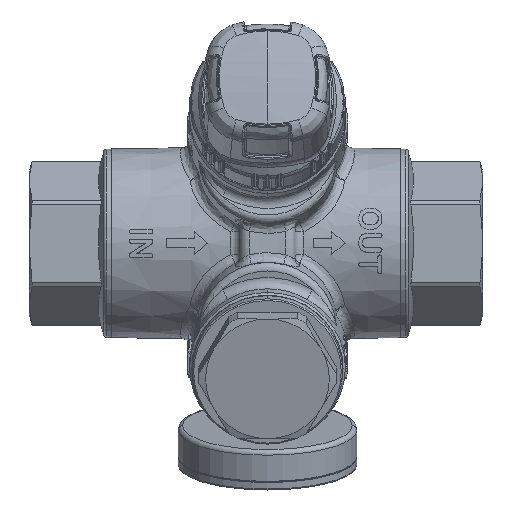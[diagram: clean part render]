
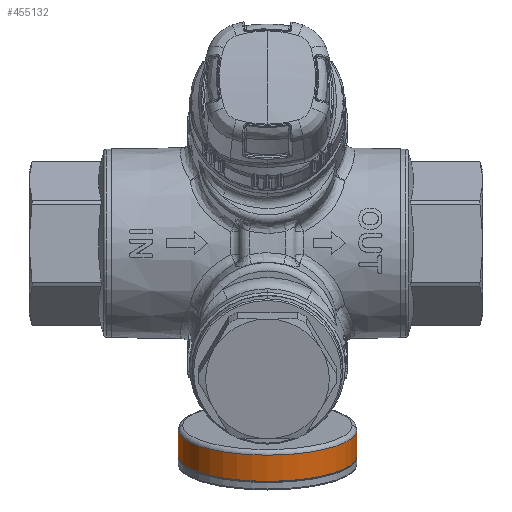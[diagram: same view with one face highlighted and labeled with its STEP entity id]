
A CAD part, top view. The second image highlights one B-rep face of the part: STEP entity #455132.
In plain terms, the highlighted cylindrical face has radius 19.5 mm (diameter 39 mm), a partial arc.
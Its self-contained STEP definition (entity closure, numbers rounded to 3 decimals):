
#454977 = PLANE('',#454978);
#454978 = AXIS2_PLACEMENT_3D('',#454979,#454980,#454981);
#454979 = CARTESIAN_POINT('',(1.101,31.093,
    28.256));
#454980 = DIRECTION('',(0.,-0.959,
    -0.282));
#454981 = DIRECTION('',(-1.,0.,0.));
#455068 = VERTEX_POINT('',#455069);
#455069 = CARTESIAN_POINT('',(20.601,31.093,
    28.256));
#455070 = VERTEX_POINT('',#455071);
#455071 = CARTESIAN_POINT('',(-18.399,31.093,
    28.256));
#455090 = CYLINDRICAL_SURFACE('',#455091,19.5);
#455091 = AXIS2_PLACEMENT_3D('',#455092,#455093,#455094);
#455092 = CARTESIAN_POINT('',(1.101,48.313,
    33.324));
#455093 = DIRECTION('',(0.,-0.959,
    -0.282));
#455094 = DIRECTION('',(-1.,0.,0.));
#455102 = EDGE_CURVE('',#455068,#455070,#455103,.T.);
#455103 = SURFACE_CURVE('',#455104,(#455109,#455116),.PCURVE_S1.);
#455104 = CIRCLE('',#455105,19.5);
#455105 = AXIS2_PLACEMENT_3D('',#455106,#455107,#455108);
#455106 = CARTESIAN_POINT('',(1.101,31.093,
    28.256));
#455107 = DIRECTION('',(0.,-0.959,
    -0.282));
#455108 = DIRECTION('',(1.,0.,0.));
#455109 = PCURVE('',#454977,#455110);
#455110 = DEFINITIONAL_REPRESENTATION('',(#455111),#455115);
#455111 = CIRCLE('',#455112,19.5);
#455112 = AXIS2_PLACEMENT_2D('',#455113,#455114);
#455113 = CARTESIAN_POINT('',(0.,0.));
#455114 = DIRECTION('',(-1.,0.));
#455115 = ( GEOMETRIC_REPRESENTATION_CONTEXT(2) 
PARAMETRIC_REPRESENTATION_CONTEXT() REPRESENTATION_CONTEXT('2D SPACE',''
  ) );
#455116 = PCURVE('',#455117,#455122);
#455117 = CYLINDRICAL_SURFACE('',#455118,19.5);
#455118 = AXIS2_PLACEMENT_3D('',#455119,#455120,#455121);
#455119 = CARTESIAN_POINT('',(1.101,48.313,
    33.324));
#455120 = DIRECTION('',(0.,-0.959,
    -0.282));
#455121 = DIRECTION('',(-1.,0.,0.));
#455122 = DEFINITIONAL_REPRESENTATION('',(#455123),#455127);
#455123 = LINE('',#455124,#455125);
#455124 = CARTESIAN_POINT('',(3.142,17.95));
#455125 = VECTOR('',#455126,1.);
#455126 = DIRECTION('',(1.,0.));
#455127 = ( GEOMETRIC_REPRESENTATION_CONTEXT(2) 
PARAMETRIC_REPRESENTATION_CONTEXT() REPRESENTATION_CONTEXT('2D SPACE',''
  ) );
#455132 = ADVANCED_FACE('',(#455133),#455117,.T.);
#455133 = FACE_BOUND('',#455134,.T.);
#455134 = EDGE_LOOP('',(#455135,#455158,#455159,#455182));
#455135 = ORIENTED_EDGE('',*,*,#455136,.F.);
#455136 = EDGE_CURVE('',#455070,#455137,#455139,.T.);
#455137 = VERTEX_POINT('',#455138);
#455138 = CARTESIAN_POINT('',(-18.399,36.849,
    29.95));
#455139 = SURFACE_CURVE('',#455140,(#455144,#455151),.PCURVE_S1.);
#455140 = LINE('',#455141,#455142);
#455141 = CARTESIAN_POINT('',(-18.399,31.093,
    28.256));
#455142 = VECTOR('',#455143,1.);
#455143 = DIRECTION('',(0.,0.959,0.282));
#455144 = PCURVE('',#455117,#455145);
#455145 = DEFINITIONAL_REPRESENTATION('',(#455146),#455150);
#455146 = LINE('',#455147,#455148);
#455147 = CARTESIAN_POINT('',(6.283,17.95));
#455148 = VECTOR('',#455149,1.);
#455149 = DIRECTION('',(0.,-1.));
#455150 = ( GEOMETRIC_REPRESENTATION_CONTEXT(2) 
PARAMETRIC_REPRESENTATION_CONTEXT() REPRESENTATION_CONTEXT('2D SPACE',''
  ) );
#455151 = PCURVE('',#455090,#455152);
#455152 = DEFINITIONAL_REPRESENTATION('',(#455153),#455157);
#455153 = LINE('',#455154,#455155);
#455154 = CARTESIAN_POINT('',(0.,17.95));
#455155 = VECTOR('',#455156,1.);
#455156 = DIRECTION('',(0.,-1.));
#455157 = ( GEOMETRIC_REPRESENTATION_CONTEXT(2) 
PARAMETRIC_REPRESENTATION_CONTEXT() REPRESENTATION_CONTEXT('2D SPACE',''
  ) );
#455158 = ORIENTED_EDGE('',*,*,#455102,.F.);
#455159 = ORIENTED_EDGE('',*,*,#455160,.T.);
#455160 = EDGE_CURVE('',#455068,#455161,#455163,.T.);
#455161 = VERTEX_POINT('',#455162);
#455162 = CARTESIAN_POINT('',(20.601,36.849,
    29.95));
#455163 = SURFACE_CURVE('',#455164,(#455168,#455175),.PCURVE_S1.);
#455164 = LINE('',#455165,#455166);
#455165 = CARTESIAN_POINT('',(20.601,31.093,
    28.256));
#455166 = VECTOR('',#455167,1.);
#455167 = DIRECTION('',(0.,0.959,0.282));
#455168 = PCURVE('',#455117,#455169);
#455169 = DEFINITIONAL_REPRESENTATION('',(#455170),#455174);
#455170 = LINE('',#455171,#455172);
#455171 = CARTESIAN_POINT('',(3.142,17.95));
#455172 = VECTOR('',#455173,1.);
#455173 = DIRECTION('',(0.,-1.));
#455174 = ( GEOMETRIC_REPRESENTATION_CONTEXT(2) 
PARAMETRIC_REPRESENTATION_CONTEXT() REPRESENTATION_CONTEXT('2D SPACE',''
  ) );
#455175 = PCURVE('',#455090,#455176);
#455176 = DEFINITIONAL_REPRESENTATION('',(#455177),#455181);
#455177 = LINE('',#455178,#455179);
#455178 = CARTESIAN_POINT('',(3.142,17.95));
#455179 = VECTOR('',#455180,1.);
#455180 = DIRECTION('',(0.,-1.));
#455181 = ( GEOMETRIC_REPRESENTATION_CONTEXT(2) 
PARAMETRIC_REPRESENTATION_CONTEXT() REPRESENTATION_CONTEXT('2D SPACE',''
  ) );
#455182 = ORIENTED_EDGE('',*,*,#455183,.F.);
#455183 = EDGE_CURVE('',#455137,#455161,#455184,.T.);
#455184 = SURFACE_CURVE('',#455185,(#455190,#455197),.PCURVE_S1.);
#455185 = CIRCLE('',#455186,19.5);
#455186 = AXIS2_PLACEMENT_3D('',#455187,#455188,#455189);
#455187 = CARTESIAN_POINT('',(1.101,36.849,
    29.95));
#455188 = DIRECTION('',(0.,0.959,0.282)
  );
#455189 = DIRECTION('',(-1.,0.,0.));
#455190 = PCURVE('',#455117,#455191);
#455191 = DEFINITIONAL_REPRESENTATION('',(#455192),#455196);
#455192 = LINE('',#455193,#455194);
#455193 = CARTESIAN_POINT('',(6.283,11.95));
#455194 = VECTOR('',#455195,1.);
#455195 = DIRECTION('',(-1.,0.));
#455196 = ( GEOMETRIC_REPRESENTATION_CONTEXT(2) 
PARAMETRIC_REPRESENTATION_CONTEXT() REPRESENTATION_CONTEXT('2D SPACE',''
  ) );
#455197 = PCURVE('',#455198,#455203);
#455198 = TOROIDAL_SURFACE('',#455199,18.5,1.);
#455199 = AXIS2_PLACEMENT_3D('',#455200,#455201,#455202);
#455200 = CARTESIAN_POINT('',(1.101,36.849,
    29.95));
#455201 = DIRECTION('',(0.,-0.959,
    -0.282));
#455202 = DIRECTION('',(-1.,0.002,
    -0.006));
#455203 = DEFINITIONAL_REPRESENTATION('',(#455204),#455208);
#455204 = LINE('',#455205,#455206);
#455205 = CARTESIAN_POINT('',(6.277,6.283));
#455206 = VECTOR('',#455207,1.);
#455207 = DIRECTION('',(-1.,0.));
#455208 = ( GEOMETRIC_REPRESENTATION_CONTEXT(2) 
PARAMETRIC_REPRESENTATION_CONTEXT() REPRESENTATION_CONTEXT('2D SPACE',''
  ) );
